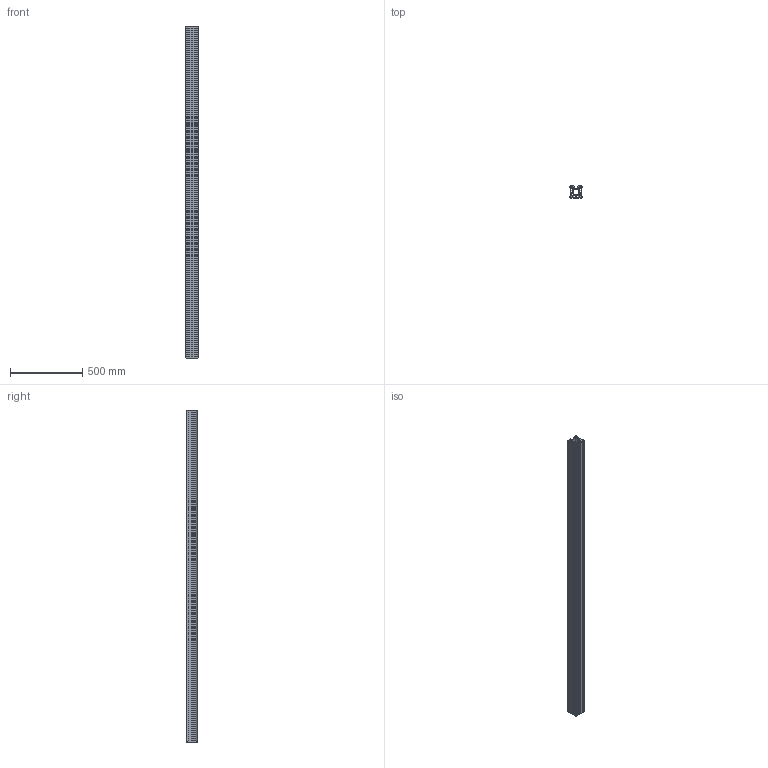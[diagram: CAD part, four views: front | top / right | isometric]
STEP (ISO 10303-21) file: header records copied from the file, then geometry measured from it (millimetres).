
FILE_DESCRIPTION (( 'STEP AP203' ), '1' );
FILE_NAME ('_-_MLF 4 2298 mm lang.step', '2005-09-01T12:46:34', ( ' ' ), ( ' ' ), 'SwSTEP 2.0', 'SolidWorks 2005187', '' );
FILE_SCHEMA (( 'CONFIG_CONTROL_DESIGN' ));
Length unit declared in the file: millimetre
Products named in the file (1): _-_MLF 4  2298 mm lang
Bounding box: 87.58 x 80 x 2298 mm (x, y, z)
Volume: 5294797 mm3; surface area: 2839504.9 mm2
Topology: 1 solids, 1 shells, 248 faces, 762 edges, 500 vertices
Faces by surface type: plane 174, cylinder 74
Entity records: 8575 total; most frequent: ORIENTED_EDGE 1524, CARTESIAN_POINT 1511, DIRECTION 1408, EDGE_CURVE 762, VECTOR 614, LINE 614, VERTEX_POINT 500, AXIS2_PLACEMENT_3D 397
